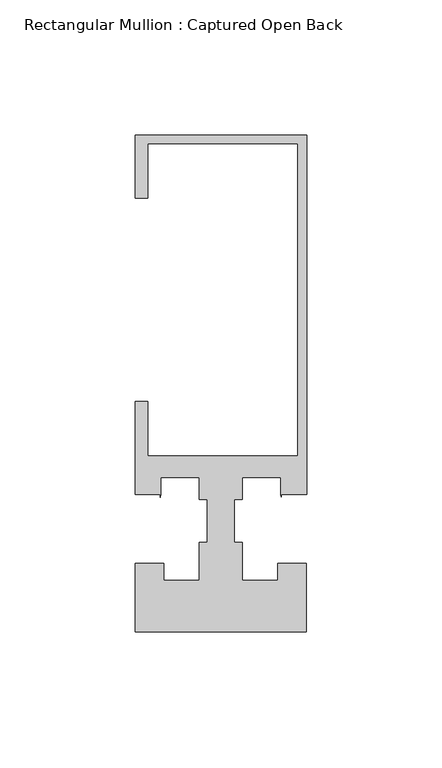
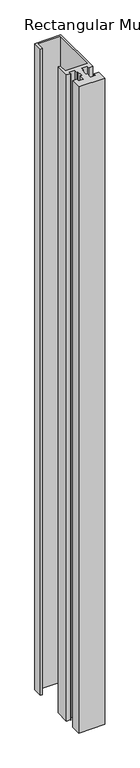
"""IFC4 building model written with IfcOpenShell, lengths in millimetres: member geometry, Rectangular Mullion : Captured Open Back."""

from ifc_helpers import new_model, si_unit, frame, origin, place, context, project, spatial, polyline, outline, extrude, source, transform, mapped, element, save


def rectangular_mullion_captured_open_back_45026f06(model_context):
    return source(origin(), model_context, "Body", "SweptSolid", [
        extrude(outline(polyline([(-63.5205663, 114.3), (0.0, 114.3), (0.0, -18.9488461), (-9.3386849, -18.9488461), (-9.3386849, -19.8905485), (-9.5249909, -18.948961), (-9.5249909, -12.7), (-23.8124458, -12.7), (-23.8124458, -20.8793999), (-26.7860526, -20.8793999), (-26.7860526, -36.6491027), (-23.8124461, -36.6491027), (-23.8124461, -50.8001709), (-10.7229117, -50.8001709), (-10.7229117, -44.4247364), (-0.0205663, -44.4247364), (-0.0205663, -69.8502416), (-63.5205663, -69.8502416), (-63.5205663, -44.4245655), (-52.8345479, -44.4245655), (-52.8345479, -50.8001709), (-39.6874472, -50.8001709), (-39.6874472, -36.6491027), (-36.738785, -36.6491027), (-36.738785, -20.8793999), (-39.7916658, -20.8793999), (-39.7916658, -12.7), (-53.9751125, -12.7), (-53.9751125, -18.933673), (-54.1413824, -20.0839351), (-54.1413824, -18.933673), (-63.5205663, -18.933673), (-63.5205663, 15.5833982), (-58.7374998, 15.5833982), (-58.7374998, -4.7625735), (-3.175617, -4.7625735), (-3.175617, 111.1250145), (-58.7374998, 111.1250145), (-58.7374998, 90.8721193), (-63.5205663, 90.8721193), (-63.5205663, 114.3)])), frame((0.0, 0.0, -1663.6794337), z_axis=(0.0, 0.0, 1.0), x_axis=(1.0, 0.0, 0.0)), (0.0, 0.0, 1.0), 1663.6794337),
    ])


if __name__ == "__main__":
    model = new_model("IFC4")
    model_context = context("Model", 3, world=origin())
    ifc_project = project(units=[si_unit("LENGTHUNIT", "METRE", prefix="MILLI")], contexts=[model_context])
    site = spatial("IfcSite", under=ifc_project)
    building = spatial("IfcBuilding", under=site)
    placement = place(None, origin())
    rectangular_mullion_captured_open_back_shape = rectangular_mullion_captured_open_back_45026f06(model_context)
    element("IfcMember", 1, ObjectType="Rectangular Mullion : Captured Open Back", at=placement, inside=building, context=model_context, shape_type="MappedRepresentation", body=[
        mapped(rectangular_mullion_captured_open_back_shape, transform((0.0, 0.0, 0.0), x_axis=(1.0, 0.0, 0.0), y_axis=(0.0, 1.0, 0.0), z_axis=(0.0, 0.0, 1.0))),
    ])
    save(model, "model.ifc")
